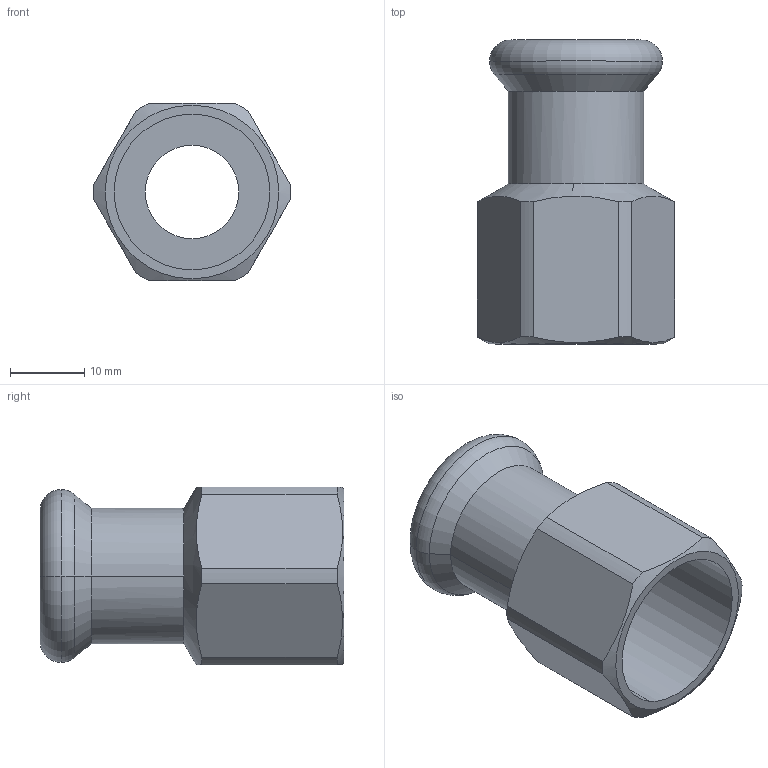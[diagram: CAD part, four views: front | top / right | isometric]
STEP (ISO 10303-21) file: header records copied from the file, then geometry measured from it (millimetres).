
FILE_DESCRIPTION(('CoCreate Modeling STEP Export'),'2;1');
FILE_NAME('C1402 15xRp1-2.stp','2014-11-06T16:56:33',(''),(''),'CoCreate Modeling STEP processor for AP214 (Solid Model)','CoCreate Modeling 17.00A 17-Jun-2010 (C) Parametric Technology GmbH','');
FILE_SCHEMA(('AUTOMOTIVE_DESIGN { 1 0 10303 214 1 1 1 1 }'));
Length unit declared in the file: millimetre
Products named in the file (2): C1402_15xRp½
Assembly tree (1 placements, depth 2):
  C1402_15xRp½
    C1402_15xRp½
Bounding box: 26.59 x 41 x 24 mm (x, y, z)
Volume: 5964.3 mm3; surface area: 5927.6 mm2
Topology: 1 solids, 1 shells, 34 faces, 86 edges, 56 vertices
Faces by surface type: cylinder 14, plane 10, cone 6, torus 4
Entity records: 1796 total; most frequent: CARTESIAN_POINT 983, ORIENTED_EDGE 172, DIRECTION 142, EDGE_CURVE 86, AXIS2_PLACEMENT_3D 58, VERTEX_POINT 56, EDGE_LOOP 38, FACE_OUTER_BOUND 34
